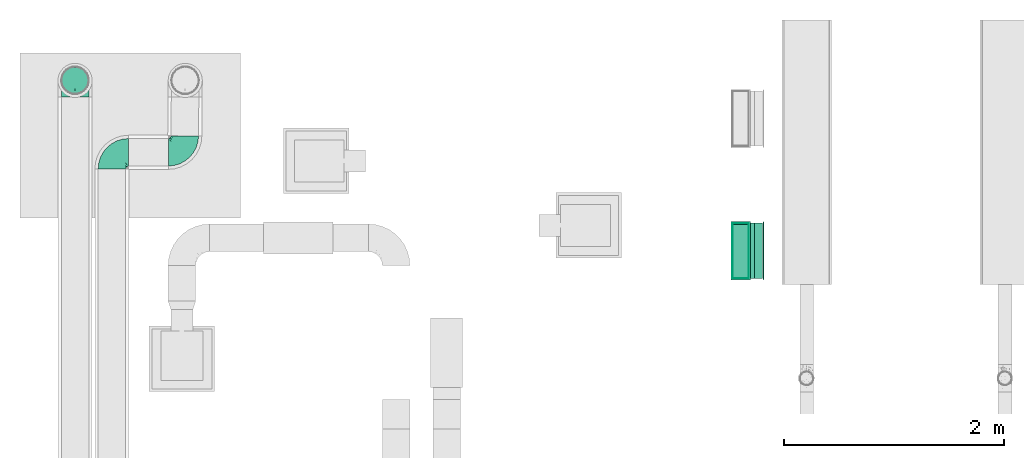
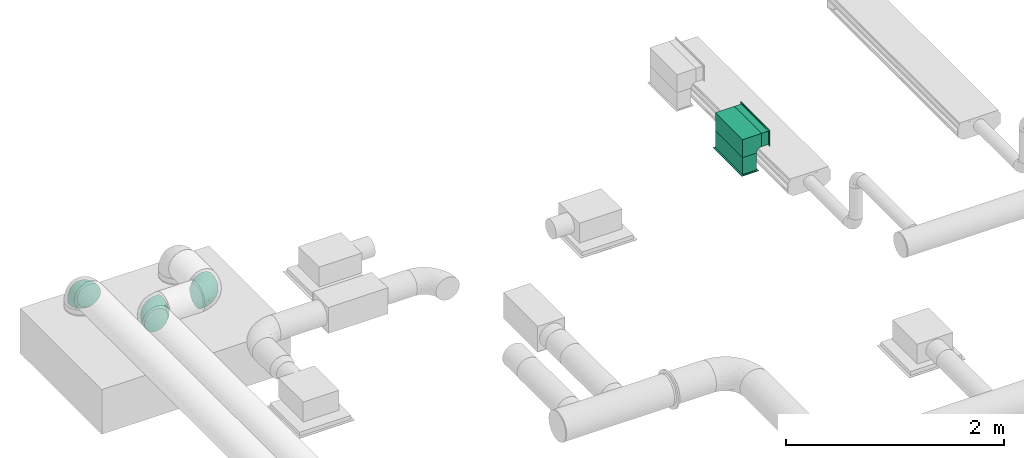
# One storey, part 23 of 36: 4 flow fittings, 2 flow segments, 2 flow terminals.
"""IFC2X3 building model written with IfcOpenShell, lengths in millimetres."""

from ifc_helpers import new_model, entity, si_unit, converted_unit, derived_unit, direction, frame, origin_with_axes, origin_2d_with_axis, place, context, subcontext, project, spatial, hollow_rectangle, extrude, open_shell, surface_model, source, transform, mapped, type_object, element, save


model = new_model("IFC2X3")

# Units and contexts
model_context = context("Model", 3, precision=0.01, world=frame((0.0, 4.29681676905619e-09, 0.0)), true_north=direction((4.01073788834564e-13, 1.0)))
plan_context = context("Plan", 3, precision=0.01, world=frame((0.0, 4.29681676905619e-09, 0.0)), true_north=direction((4.01073788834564e-13, 1.0)))
body_context = subcontext(model_context, "Body", "Model", "MODEL_VIEW")
ifc_project = project(units=[converted_unit("PLANEANGLEUNIT", "DEGREE", entity("IfcPositiveLengthMeasure", 0.0174532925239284), si_unit("PLANEANGLEUNIT", "RADIAN"), dimensions=[0, 0, 0, 0, 0, 0, 0]), si_unit("AREAUNIT", "SQUARE_METRE"), si_unit("LENGTHUNIT", "METRE", prefix="MILLI"), si_unit("MASSUNIT", "GRAM", prefix="KILO"), si_unit("POWERUNIT", "WATT"), si_unit("PRESSUREUNIT", "PASCAL"), si_unit("FORCEUNIT", "NEWTON", prefix="KILO"), si_unit("ELECTRICCURRENTUNIT", "AMPERE"), si_unit("THERMODYNAMICTEMPERATUREUNIT", "DEGREE_CELSIUS"), si_unit("TIMEUNIT", "SECOND"), si_unit("VOLUMEUNIT", "CUBIC_METRE"), derived_unit("LINEARVELOCITYUNIT", [(si_unit("LENGTHUNIT", "METRE"), 1), (si_unit("TIMEUNIT", "SECOND"), -1)]), derived_unit("VOLUMETRICFLOWRATEUNIT", [(si_unit("VOLUMEUNIT", "CUBIC_METRE"), 1), (si_unit("TIMEUNIT", "SECOND"), -1)]), derived_unit("THERMALTRANSMITTANCEUNIT", [(si_unit("POWERUNIT", "WATT"), 1), (si_unit("THERMODYNAMICTEMPERATUREUNIT", "KELVIN"), -1), (si_unit("AREAUNIT", "SQUARE_METRE"), -1)])], contexts=[model_context, plan_context])

# Site, building, storey
site_placement = place(None, frame((0.0, -4.29681676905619e-09, 0.0), z_axis=(0.0, 0.0, 1.0), x_axis=(1.0, 0.0, 0.0)))
site = spatial("IfcSite", under=ifc_project, at=site_placement, CompositionType="ELEMENT")
building_placement = place(site_placement, frame((0.0, 4.29681676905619e-09, 0.0), z_axis=(0.0, 0.0, 1.0), x_axis=(1.0, 0.0, 0.0)))
building = spatial("IfcBuilding", under=site, at=building_placement, Name="mc-building", CompositionType="ELEMENT")
storey_placement = place(building_placement, frame((0.0, 0.0, 204000.0), z_axis=(0.0, 0.0, 1.0), x_axis=(1.0, 0.0, 0.0)))
storey = spatial("IfcBuildingStorey", under=building, at=storey_placement, Name="Nivå D", CompositionType="ELEMENT", Elevation=204000.0)

# Flow fittings
duct_fitting_type_1 = type_object("IfcDuctFittingType", Name="WA", PredefinedType="BEND")
shared_shape_1 = source(origin_with_axes(), body_context, "Body", "SurfaceModel", [
    surface_model("IfcShellBasedSurfaceModel", [(-76.70371, 112.05905, 250.0), (-81.69873, 100.0, 250.0), (75.0, 125.0, 250.0), (-75.0, 126.5, 250.0), (75.0, 126.5, 250.0), (-75.0, 125.0, 250.0), (75.0, -75.0, 250.0), (-126.5, 75.0, 250.0), (-126.5, -75.0, 250.0), (-125.0, 75.0, 250.0), (-112.05905, 76.70371, 250.0), (-89.64466, 89.64466, 250.0), (-100.0, 81.69873, 250.0), (-126.5, -75.0, -250.0), (-126.5, 75.0, -250.0), (-125.0, 75.0, -250.0), (-112.05905, 76.70371, -250.0), (-100.0, 81.69873, -250.0), (75.0, -75.0, -250.0), (-89.64466, 89.64466, -250.0), (-81.69873, 100.0, -250.0), (-76.70371, 112.05905, -250.0), (75.0, 125.0, -250.0), (-75.0, 125.0, -250.0), (-75.0, 126.5, -250.0), (75.0, 126.5, -250.0)], [open_shell([[[0, 1, 2]], [[3, 2, 4]], [[2, 3, 5]], [[2, 5, 0]], [[1, 6, 2]], [[7, 8, 9]], [[9, 8, 10]], [[11, 12, 6]], [[8, 12, 10]], [[12, 8, 6]], [[11, 6, 1]], [[13, 14, 15]], [[13, 15, 16]], [[13, 17, 18]], [[17, 13, 16]], [[18, 17, 19]], [[20, 21, 22]], [[20, 22, 18]], [[23, 22, 21]], [[22, 23, 24]], [[24, 25, 22]], [[20, 18, 19]], [[20, 1, 0]], [[23, 0, 5]], [[21, 0, 23]], [[20, 0, 21]], [[20, 19, 1]], [[19, 11, 1]], [[10, 12, 16]], [[9, 10, 15]], [[19, 17, 11]], [[17, 12, 11]], [[16, 12, 17]], [[16, 15, 10]], [[7, 9, 14]], [[15, 14, 9]], [[8, 7, 13]], [[14, 13, 7]], [[6, 8, 13]], [[13, 18, 6]], [[2, 6, 22]], [[18, 22, 6]], [[4, 2, 25]], [[22, 25, 2]], [[3, 4, 24]], [[25, 24, 4]], [[5, 3, 23]], [[24, 23, 3]]])]),
])
flow_fitting_placement = place(storey_placement, frame((520619.9495, 418919.06689, 3190.0), z_axis=(0.0, 1.0, 0.0), x_axis=(0.0, 0.0, 1.0)))
element("IfcFlowFitting", 1, at=flow_fitting_placement, inside=storey, type_object=duct_fitting_type_1, Name="WA", context=body_context, shape_type="MappedRepresentation", body=[
    mapped(shared_shape_1, transform((0.0, 0.0, 0.0), scale=1.0)),
])
duct_fitting_type_2 = type_object("IfcDuctFittingType", Name="magicirc_elbow_short_001", PredefinedType="BEND")
shared_shape_2 = source(origin_with_axes(), body_context, "Body", "SurfaceModel", [
    surface_model("IfcShellBasedSurfaceModel", [(-150.0, 0.0, -125.0), (-150.0, -32.35238, -120.74073), (-150.0, 32.35238, -120.74073), (-150.0, 62.5, -108.25318), (-150.0, 88.38835, -88.38835), (-150.0, 108.25318, -62.5), (-150.0, 120.74073, -32.35238), (-150.0, -62.5, -108.25318), (-150.0, -88.38835, -88.38835), (-150.0, -125.0, 0.0), (-150.0, -108.25318, -62.5), (-150.0, -120.74073, -32.35238), (-150.0, 125.0, 0.0), (-150.0, -120.74073, 32.35238), (-150.0, 120.74073, 32.35238), (-150.0, 108.25318, 62.5), (-150.0, 32.35238, 120.74073), (-150.0, 62.5, 108.25318), (-150.0, 88.38835, 88.38835), (-150.0, -88.38835, 88.38835), (-150.0, -108.25318, 62.5), (-150.0, -32.35238, 120.74073), (-150.0, 0.0, 125.0), (-150.0, -62.5, 108.25318), (-32.35238, 150.0, -120.74073), (88.38835, 150.0, -88.38835), (0.0, 150.0, -125.0), (-88.38835, 150.0, -88.38835), (-62.5, 150.0, -108.25318), (-108.25318, 150.0, -62.5), (-120.74073, 150.0, -32.35238), (88.38835, 150.0, 88.38835), (32.35238, 150.0, -120.74073), (62.5, 150.0, -108.25318), (120.74073, 150.0, -32.35238), (108.25318, 150.0, -62.5), (125.0, 150.0, 0.0), (-125.0, 150.0, 0.0), (-120.74073, 150.0, 32.35238), (-32.35238, 150.0, 120.74073), (-108.25318, 150.0, 62.5), (-88.38835, 150.0, 88.38835), (-62.5, 150.0, 108.25318), (120.74073, 150.0, 32.35238), (108.25318, 150.0, 62.5), (62.5, 150.0, 108.25318), (0.0, 150.0, 125.0), (32.35238, 150.0, 120.74073), (3.43621, -49.5686, 72.62973), (-18.36868, -48.37229, 88.70337), (-18.83692, -66.65046, 70.44253), (-111.90441, -117.21345, 35.28889), (-118.95041, -121.94188, 0.0), (25.86906, 108.55436, 121.17479), (-75.7772, -90.32158, 72.9261), (-74.87608, -74.03385, 90.43438), (-106.18274, -83.07991, 89.59712), (-96.35016, -119.71595, 0.0), (-46.47779, 70.62109, 123.46212), (-76.11794, 76.11794, 116.41901), (-69.40624, 48.8823, 123.2752), (-124.4932, -102.85852, 69.13391), (61.55426, -23.61809, 0.0), (70.72079, -10.51336, 22.73937), (52.73629, -32.74631, 22.58023), (-124.77817, -54.06971, 111.94259), (-90.65624, -57.4337, 106.30719), (32.14495, -52.26832, 26.33949), (-0.28194, -75.27927, 33.26458), (23.61809, -61.55426, 0.0), (-95.68999, 131.65378, 83.88297), (-69.77814, 120.80048, 106.99559), (-67.0959, -108.40643, 29.86559), (-70.55611, -111.89141, 0.0), (-44.76206, -104.06687, 0.0), (-59.72745, 94.86231, 116.91683), (-108.55438, -25.86905, 121.17479), (54.06971, 124.77816, 111.94259), (-27.02672, -92.24399, 28.66038), (-115.00313, 7.3209, 124.96177), (37.68395, -37.68396, 47.97943), (-29.53309, 7.28525, 119.4722), (-3.39232, -9.52602, 105.74117), (0.96712, 29.12319, 117.22512), (-136.08989, 114.55349, 55.66419), (-123.43379, 95.73566, 87.17875), (-119.07435, 119.07435, 65.82439), (-129.09162, 129.09162, 33.48663), (-137.5, 128.34936, 0.0), (-121.4114, 69.81738, 106.84783), (-150.0, 47.42619, 114.49695), (-128.63564, 33.72653, 120.89263), (-27.58141, -83.17169, 52.68646), (-47.99632, -78.87458, 74.22581), (-54.84475, -96.13379, 51.52422), (103.28598, 90.85645, 59.18699), (90.74371, 74.5558, 71.84785), (96.43496, 48.91625, 45.66343), (-41.1276, 38.26732, 124.85571), (102.85852, 124.4932, 69.13391), (83.07991, 106.18274, 89.59712), (-94.00852, 107.9804, 96.05098), (74.96021, 76.43193, 90.06036), (117.21345, 111.90441, 35.28889), (121.94188, 118.95041, 0.0), (-47.30293, -61.16044, 91.82798), (78.87458, 47.99631, 74.22581), (76.94281, 15.76685, 52.00246), (-101.88517, 84.02177, 104.66367), (110.18665, 71.48082, 28.20521), (111.89141, 70.55611, 0.0), (55.40218, 7.25052, 74.8198), (24.63024, -24.60151, 78.91029), (58.21029, -16.89277, 44.41752), (57.4337, 90.65623, 106.30718), (30.02154, 57.30162, 113.4468), (-128.34936, 137.5, 0.0), (-73.97464, 6.61086, 124.39367), (-33.52256, 127.66016, 120.99202), (-7.19958, 114.11429, 124.96953), (-18.42999, 93.20127, 124.82066), (14.9991, 81.71173, 121.69074), (-109.70554, 132.7303, 65.99174), (-81.52168, -16.35182, 121.37252), (-56.488, -29.68334, 113.41267), (55.20354, 44.94313, 95.60044), (-90.85645, -103.28598, 59.18699), (-26.43187, -29.68413, 104.83883), (-7.20961, 68.77767, 124.18226), (30.67747, 15.69438, 99.90432), (-47.42619, 150.0, 114.49695), (-107.88822, 38.92177, 121.04182), (-96.15013, 61.71268, 115.9946), (-96.31285, 19.15333, 124.70605), (14.59493, -56.28029, 51.4962), (104.06687, 44.76206, 0.0), (102.01943, 45.4582, 23.12647), (89.00824, 19.09141, 24.82271), (119.71595, 96.35016, 0.0), (-20.99012, -91.36051, 0.0), (78.65415, -2.78181, 0.0), (91.36051, 20.99012, 0.0), (2.78181, -78.65415, 0.0), (44.45436, -44.45436, 0.0), (-38.84807, 105.96939, 121.23578), (-120.80048, 69.77814, -106.99559), (54.06971, 124.77816, -111.94259), (-90.65624, -57.4337, -106.30719), (-124.77817, -54.06971, -111.94259), (-108.55438, -25.86906, -121.17479), (-18.36869, -48.37229, -88.70338), (-18.83692, -66.65046, -70.44253), (-47.30293, -61.16045, -91.82798), (-96.31285, 19.15333, -124.70605), (-73.97463, 6.61086, -124.39367), (-115.00313, 7.3209, -124.96177), (14.9991, 81.71175, -121.69074), (25.86906, 108.55438, -121.17479), (30.02154, 57.30164, -113.44681), (-129.09162, 129.09162, -33.48663), (-95.73566, 123.43379, -87.17875), (-84.02176, 101.88516, -104.66368), (-107.9804, 94.00852, -96.05098), (-0.28194, -75.27927, -33.26458), (-131.65378, 95.68999, -83.88297), (-132.7303, 109.70554, -65.99174), (-107.88822, 38.92177, -121.04182), (-128.63564, 33.72653, -120.89263), (-119.07435, 119.07435, -65.82439), (-111.90441, -117.21345, -35.28889), (-76.11794, 76.11793, -116.41901), (-69.69403, 48.67006, -123.27304), (-95.38125, 59.83873, -116.77822), (-106.18274, -83.07991, -89.59712), (-3.39231, -9.52602, -105.74117), (24.63023, -24.60151, -78.91029), (-54.84475, -96.13379, -51.52422), (-75.7772, -90.32158, -72.9261), (-47.99632, -78.87458, -74.22581), (-124.4932, -102.85852, -69.13391), (30.67749, 15.69438, -99.9043), (0.96713, 29.12319, -117.22511), (-69.81738, 121.4114, -106.84784), (-27.02672, -92.24399, -28.66038), (-67.0959, -108.40643, -29.86559), (78.87458, 47.99631, -74.22581), (96.43495, 48.9163, -45.66349), (76.94285, 15.76686, -52.00241), (37.68395, -37.68396, -47.97943), (58.21029, -16.89277, -44.41752), (52.73629, -32.74631, -22.58023), (-48.07357, 68.7261, -123.44788), (-114.55349, 136.08989, -55.66419), (117.21345, 111.90441, -35.28889), (-7.19958, 114.11428, -124.96953), (-27.58141, -83.17169, -52.68646), (-47.42619, 150.0, -114.49695), (-33.52256, 127.66015, -120.99202), (32.14495, -52.26832, -26.33949), (14.59493, -56.28029, -51.4962), (83.07991, 106.18274, -89.59712), (102.85852, 124.4932, -69.13391), (89.00829, 19.0915, -24.82265), (70.72079, -10.51336, -22.73937), (57.4337, 90.65623, -106.30719), (110.18664, 71.4808, -28.20522), (102.0194, 45.45816, -23.12649), (-90.85645, -103.28598, -59.18699), (90.01217, 76.65037, -73.68876), (73.67235, 74.27652, -90.57836), (-29.53307, 7.28526, -119.4722), (-56.488, -29.68334, -113.41267), (-74.87608, -74.03385, -90.43438), (-81.52167, -16.35182, -121.37252), (-26.43187, -29.68413, -104.83883), (103.28598, 90.85645, -59.18699), (-18.42999, 93.20126, -124.82066), (-38.84807, 105.96939, -121.23578), (55.20355, 44.94317, -95.60045), (-150.0, 47.42619, -114.49695), (55.40223, 7.25057, -74.81978), (-61.71268, 96.15012, -115.9946), (-41.12759, 38.26731, -124.85571), (3.43621, -49.56858, -72.62973), (-7.2096, 68.77766, -124.18226)], [open_shell([[[0, 1, 2]], [[3, 2, 4]], [[1, 5, 2]], [[4, 2, 5]], [[5, 1, 6]], [[7, 8, 1]], [[9, 1, 8]], [[10, 11, 8]], [[9, 8, 11]], [[9, 6, 1]], [[9, 12, 6]], [[12, 13, 14]], [[15, 14, 16]], [[16, 17, 18]], [[15, 16, 18]], [[16, 14, 19]], [[20, 19, 13]], [[19, 14, 13]], [[21, 22, 23]], [[19, 23, 22]], [[19, 22, 16]], [[9, 13, 12]], [[24, 25, 26]], [[27, 24, 28]], [[29, 30, 24]], [[29, 24, 27]], [[24, 31, 25]], [[32, 25, 33]], [[32, 26, 25]], [[25, 34, 35]], [[34, 25, 36]], [[25, 31, 36]], [[24, 30, 37]], [[38, 31, 37]], [[39, 38, 40]], [[41, 42, 39]], [[41, 39, 40]], [[31, 38, 39]], [[43, 31, 44]], [[36, 31, 43]], [[45, 46, 47]], [[46, 45, 31]], [[39, 46, 31]], [[31, 24, 37]], [[48, 49, 50]], [[51, 13, 52]], [[53, 47, 46]], [[54, 55, 56]], [[52, 57, 51]], [[58, 59, 60]], [[20, 61, 19]], [[62, 63, 64]], [[65, 56, 66]], [[67, 68, 69]], [[41, 70, 71]], [[72, 73, 74]], [[59, 58, 75]], [[21, 76, 22]], [[77, 45, 47]], [[23, 19, 56]], [[72, 74, 78]], [[79, 16, 22]], [[76, 21, 65]], [[80, 67, 64]], [[81, 82, 83]], [[84, 85, 86]], [[87, 12, 14]], [[12, 87, 88]], [[18, 17, 89]], [[51, 20, 13]], [[18, 89, 85]], [[17, 90, 91]], [[84, 14, 15]], [[91, 90, 16]], [[92, 93, 94]], [[40, 70, 41]], [[95, 96, 97]], [[83, 98, 81]], [[44, 31, 99]], [[100, 31, 45]], [[86, 85, 101]], [[102, 96, 100]], [[103, 104, 43]], [[66, 55, 105]], [[77, 100, 45]], [[103, 43, 44]], [[97, 106, 107]], [[85, 15, 18]], [[108, 85, 89]], [[85, 84, 15]], [[103, 109, 110]], [[111, 112, 113]], [[114, 53, 115]], [[88, 87, 116]], [[60, 117, 98]], [[116, 87, 37]], [[85, 108, 101]], [[38, 37, 87]], [[71, 118, 42]], [[119, 120, 121]], [[122, 38, 87]], [[70, 122, 101]], [[123, 76, 124]], [[114, 115, 125]], [[119, 53, 46]], [[42, 41, 71]], [[77, 53, 114]], [[72, 78, 94]], [[54, 126, 94]], [[21, 23, 65]], [[124, 76, 66]], [[61, 56, 19]], [[76, 123, 79]], [[93, 105, 55]], [[124, 127, 81]], [[102, 100, 114]], [[99, 100, 95]], [[46, 39, 119]], [[115, 121, 128]], [[128, 83, 115]], [[115, 83, 129]], [[75, 101, 59]], [[118, 39, 130]], [[106, 111, 107]], [[125, 111, 106]], [[131, 89, 17]], [[108, 132, 59]], [[118, 119, 39]], [[119, 118, 120]], [[51, 57, 73]], [[61, 51, 126]], [[99, 103, 44]], [[109, 95, 97]], [[76, 79, 22]], [[133, 79, 117]], [[83, 128, 98]], [[129, 83, 82]], [[128, 120, 58]], [[59, 132, 60]], [[129, 82, 112]], [[125, 115, 129]], [[49, 112, 82]], [[80, 134, 67]], [[127, 49, 82]], [[93, 92, 50]], [[111, 125, 129]], [[125, 106, 102]], [[112, 111, 129]], [[111, 113, 107]], [[98, 117, 81]], [[124, 81, 117]], [[63, 113, 64]], [[135, 109, 136]], [[137, 97, 107]], [[97, 136, 109]], [[110, 138, 103]], [[103, 95, 109]], [[78, 74, 139]], [[73, 72, 51]], [[51, 72, 126]], [[68, 134, 50]], [[72, 94, 126]], [[92, 94, 78]], [[54, 94, 93]], [[63, 107, 113]], [[137, 140, 141]], [[68, 92, 78]], [[50, 49, 105]], [[78, 142, 68]], [[68, 142, 69]], [[67, 69, 143]], [[64, 67, 143]], [[68, 67, 134]], [[68, 50, 92]], [[48, 50, 134]], [[80, 48, 134]], [[112, 49, 48]], [[62, 140, 63]], [[80, 64, 113]], [[140, 137, 63]], [[107, 63, 137]], [[64, 143, 62]], [[113, 112, 80]], [[48, 80, 112]], [[55, 54, 93]], [[56, 126, 54]], [[93, 50, 105]], [[56, 55, 66]], [[127, 105, 49]], [[66, 105, 124]], [[132, 108, 89]], [[101, 108, 59]], [[89, 131, 132]], [[60, 98, 58]], [[132, 131, 60]], [[60, 131, 133]], [[128, 58, 98]], [[75, 58, 144]], [[144, 71, 75]], [[101, 75, 71]], [[122, 70, 40]], [[136, 141, 135]], [[71, 70, 101]], [[38, 122, 40]], [[101, 122, 86]], [[84, 87, 14]], [[122, 87, 86]], [[13, 9, 52]], [[104, 103, 138]], [[104, 36, 43]], [[87, 84, 86]], [[51, 61, 20]], [[56, 61, 126]], [[56, 65, 23]], [[76, 65, 66]], [[100, 99, 31]], [[103, 99, 95]], [[53, 77, 47]], [[100, 77, 114]], [[118, 71, 144]], [[120, 118, 144]], [[42, 118, 130]], [[79, 133, 91]], [[79, 91, 16]], [[17, 91, 131]], [[124, 117, 123]], [[79, 123, 117]], [[125, 102, 114]], [[96, 102, 106]], [[97, 96, 106]], [[100, 96, 95]], [[115, 53, 121]], [[119, 121, 53]], [[58, 120, 144]], [[121, 120, 128]], [[60, 133, 117]], [[91, 133, 131]], [[81, 127, 82]], [[105, 127, 124]], [[97, 137, 136]], [[141, 136, 137]], [[109, 135, 110]], [[139, 142, 78]], [[4, 145, 3]], [[32, 33, 146]], [[147, 148, 149]], [[150, 151, 152]], [[153, 154, 155]], [[156, 157, 158]], [[88, 159, 12]], [[160, 161, 162]], [[159, 6, 12]], [[142, 163, 69]], [[162, 164, 165]], [[3, 166, 167]], [[168, 160, 162]], [[159, 165, 6]], [[10, 169, 11]], [[169, 52, 11]], [[170, 171, 172]], [[7, 148, 173]], [[174, 175, 150]], [[176, 177, 178]], [[149, 1, 0]], [[34, 36, 104]], [[10, 8, 179]], [[180, 174, 181]], [[161, 160, 182]], [[183, 74, 184]], [[8, 7, 173]], [[185, 186, 187]], [[188, 189, 190]], [[159, 88, 116]], [[155, 149, 0]], [[37, 30, 159]], [[171, 170, 191]], [[192, 30, 29]], [[193, 35, 34]], [[4, 164, 145]], [[192, 160, 168]], [[24, 26, 194]], [[148, 7, 1]], [[155, 0, 2]], [[157, 194, 26]], [[163, 183, 195]], [[196, 24, 197]], [[198, 163, 199]], [[182, 160, 27]], [[160, 29, 27]], [[200, 33, 25]], [[35, 201, 25]], [[187, 186, 202]], [[203, 62, 190]], [[32, 146, 157]], [[200, 204, 146]], [[205, 135, 206]], [[184, 169, 207]], [[104, 138, 193]], [[34, 104, 193]], [[27, 28, 182]], [[183, 142, 139]], [[32, 157, 26]], [[200, 208, 209]], [[210, 181, 174]], [[147, 149, 211]], [[177, 212, 178]], [[37, 159, 116]], [[179, 173, 207]], [[5, 164, 4]], [[211, 213, 154]], [[210, 211, 154]], [[214, 174, 150]], [[201, 200, 25]], [[208, 200, 215]], [[158, 157, 204]], [[216, 217, 197]], [[204, 209, 218]], [[172, 162, 170]], [[167, 2, 219]], [[180, 175, 174]], [[187, 189, 220]], [[182, 28, 197]], [[161, 221, 170]], [[194, 157, 156]], [[28, 196, 197]], [[179, 169, 10]], [[169, 73, 57]], [[193, 110, 205]], [[201, 193, 215]], [[2, 167, 155]], [[155, 154, 213]], [[180, 181, 158]], [[181, 210, 222]], [[154, 153, 171]], [[170, 221, 191]], [[158, 218, 180]], [[180, 218, 220]], [[175, 180, 220]], [[195, 178, 151]], [[151, 223, 199]], [[212, 152, 178]], [[204, 218, 158]], [[185, 187, 220]], [[185, 220, 218]], [[175, 220, 189]], [[210, 174, 214]], [[154, 222, 210]], [[208, 186, 185]], [[187, 202, 203]], [[205, 186, 215]], [[206, 141, 202]], [[215, 193, 205]], [[169, 184, 73]], [[74, 73, 184]], [[184, 176, 183]], [[176, 184, 207]], [[183, 176, 195]], [[177, 176, 207]], [[195, 176, 178]], [[206, 186, 205]], [[207, 173, 177]], [[178, 152, 151]], [[195, 151, 163]], [[69, 163, 198]], [[142, 183, 163]], [[69, 198, 143]], [[188, 198, 199]], [[190, 143, 198]], [[223, 151, 150]], [[163, 151, 199]], [[150, 175, 223]], [[188, 223, 175]], [[223, 188, 199]], [[175, 189, 188]], [[188, 190, 198]], [[190, 189, 203]], [[187, 203, 189]], [[202, 140, 203]], [[62, 203, 140]], [[62, 143, 190]], [[212, 173, 147]], [[173, 212, 177]], [[147, 211, 152]], [[147, 152, 212]], [[214, 152, 211]], [[221, 161, 182]], [[162, 161, 170]], [[182, 217, 221]], [[191, 222, 171]], [[221, 217, 191]], [[191, 217, 216]], [[154, 171, 222]], [[172, 166, 145]], [[166, 172, 171]], [[162, 172, 145]], [[165, 164, 5]], [[141, 140, 202]], [[145, 164, 162]], [[6, 165, 5]], [[162, 165, 168]], [[192, 159, 30]], [[165, 159, 168]], [[52, 169, 57]], [[52, 9, 11]], [[160, 192, 29]], [[159, 192, 168]], [[173, 179, 8]], [[169, 179, 207]], [[149, 148, 1]], [[173, 148, 147]], [[193, 201, 35]], [[200, 201, 215]], [[200, 146, 33]], [[157, 146, 204]], [[217, 182, 197]], [[24, 194, 197]], [[216, 197, 194]], [[166, 3, 145]], [[3, 167, 219]], [[167, 166, 153]], [[211, 149, 213]], [[155, 213, 149]], [[186, 208, 215]], [[209, 208, 185]], [[218, 209, 185]], [[200, 209, 204]], [[156, 216, 194]], [[167, 153, 155]], [[171, 153, 166]], [[152, 214, 150]], [[210, 214, 211]], [[141, 206, 135]], [[202, 186, 206]], [[110, 193, 138]], [[110, 135, 205]], [[74, 183, 139]], [[191, 224, 222]], [[181, 222, 224]], [[181, 224, 158]], [[158, 224, 156]], [[156, 224, 216]], [[191, 216, 224]]])]),
])
for number, where, z_axis, x_axis, name in (
    (2, (514912.18938, 419812.77189, 2614.0), (0.0, 0.0, 1.0), (-1.0, 0.0, 0.0), "magicirc_elbow_short_001"),
    (3, (515573.60115, 419812.77189, 2614.0), (0.0, 0.0, 1.0), (1.0, 0.0, 0.0), "magicirc_elbow_short_001"),
    (4, (514577.5, 420465.19145, 2614.0), (1.0, 0.0, 0.0), (0.0, 0.0, 1.0), "magicirc_elbow_short_001"),
):
    element("IfcFlowFitting", number, at=place(storey_placement, frame(where, z_axis=z_axis, x_axis=x_axis)), inside=storey, type_object=duct_fitting_type_2, Name=name, context=body_context, shape_type="MappedRepresentation", body=[
        mapped(shared_shape_2, transform((0.0, 0.0, 0.0), scale=1.0)),
    ])

# Flow segments
duct_segment_type = type_object("IfcDuctSegmentType", Name="KK002T - Rektangulære, Forsinket stål", PredefinedType="RIGIDSEGMENT")
shared_shape_3 = source(origin_with_axes(), body_context, "Body", "SweptSolid", [
    extrude(hollow_rectangle(XDim=500.0, YDim=150.0, WallThickness=2.0, at=origin_2d_with_axis()), frame((0.0, 0.0, 0.0), z_axis=(1.0, 0.0, 0.0), x_axis=(0.0, 1.0, 0.0)), (0.0, 0.0, 1.0), 188.4),
])
flow_segment_1_placement = place(storey_placement, frame((520619.9495, 418919.06689, 2875.05682999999), z_axis=(-1.0, 0.0, 0.0), x_axis=(0.0, 0.0, 1.0)))
element("IfcFlowSegment", 5, at=flow_segment_1_placement, inside=storey, type_object=duct_segment_type, Name="KK002T - Rektangulære, Forsinket stål", context=body_context, shape_type="MappedRepresentation", body=[
    mapped(shared_shape_3, transform((0.0, 0.0, 0.0), scale=1.0)),
])
shared_shape_4 = source(origin_with_axes(), body_context, "Body", "SweptSolid", [
    extrude(hollow_rectangle(XDim=500.0, YDim=150.0, WallThickness=2.0, at=origin_2d_with_axis()), frame((0.0, 0.0, 0.0), z_axis=(1.0, 0.0, 0.0), x_axis=(0.0, 1.0, 0.0)), (0.0, 0.0, 1.0), 73.5),
])
flow_segment_2_placement = place(storey_placement, frame((520746.4495, 418919.06689, 3190.0), z_axis=(0.0, 0.0, 1.0), x_axis=(1.0, 0.0, 0.0)))
element("IfcFlowSegment", 6, at=flow_segment_2_placement, inside=storey, type_object=duct_segment_type, Name="KK002T - Rektangulære, Forsinket stål", context=body_context, shape_type="MappedRepresentation", body=[
    mapped(shared_shape_4, transform((0.0, 0.0, 0.0), scale=1.0)),
])

# Flow terminals
air_terminal_type = type_object("IfcAirTerminalType", Name="GRLc 500-150", PredefinedType="NOTDEFINED")
shared_shape_5 = source(origin_with_axes(), body_context, "Body", "SurfaceModel", [
    surface_model("IfcShellBasedSurfaceModel", [(9.90194, -239.99999, 64.98039), (4.90194, -264.99999, 89.98039), (9.90194, 239.99999, 64.98039), (4.90194, 264.99999, 89.98039), (10.09806, 239.99999, 65.01961), (5.09806, 264.99999, 90.01961), (5.09806, -264.99999, 90.01961), (10.09806, -239.99999, 65.01961), (10.09806, -239.99999, -65.01961), (5.09806, -264.99999, -90.01961), (10.09806, 239.99999, -65.01961), (5.09806, 264.99999, -90.01961), (9.90194, 239.99999, -64.98039), (4.90194, 264.99999, -89.98039), (4.90194, -264.99999, -89.98039), (9.90194, -239.99999, -64.98039), (9.90194, -239.98039, -65.0), (4.90194, -264.98039, -90.0), (4.90194, -264.98039, 90.0), (9.90194, -239.98039, 65.0), (10.09806, -240.01962, 65.0), (5.09806, -265.01962, 90.0), (5.09806, -265.01962, -90.0), (10.09806, -240.01962, -65.0), (10.09806, 240.01962, -65.0), (5.09806, 265.01962, -90.0), (5.09806, 265.01962, 90.0), (10.09806, 240.01962, 65.0), (9.90194, 239.98039, 65.0), (4.90194, 264.98039, 90.0), (4.90194, 264.98039, -90.0), (9.90194, 239.98039, -65.0), (-0.1, 264.99999, 75.0), (-0.1, 250.0, 75.0), (-0.1, 250.0, 90.0), (-0.1, 264.99999, 90.0), (0.1, 264.99999, 90.0), (0.1, 250.0, 90.0), (0.1, 250.0, 75.0), (0.1, 264.99999, 75.0), (-0.1, 264.99999, -90.0), (-0.1, 250.0, -90.0), (-0.1, 250.0, -75.0), (-0.1, 264.99999, -75.0), (0.1, 264.99999, -75.0), (0.1, 250.0, -75.0), (0.1, 250.0, -90.0), (0.1, 264.99999, -90.0), (-0.1, -250.0, -90.0), (-0.1, -264.99999, -90.0), (-0.1, -264.99999, -75.0), (-0.1, -250.0, -75.0), (0.1, -250.0, -75.0), (0.1, -264.99999, -75.0), (0.1, -264.99999, -90.0), (0.1, -250.0, -90.0), (-0.1, -250.0, 75.0), (-0.1, -264.99999, 75.0), (-0.1, -264.99999, 90.0), (-0.1, -250.0, 90.0), (0.1, -250.0, 90.0), (0.1, -264.99999, 90.0), (0.1, -264.99999, 75.0), (0.1, -250.0, 75.0), (0.0, -264.99999, 89.9), (0.0, 264.99999, 89.9), (5.0, -264.99999, 89.9), (5.0, 264.99999, 89.9), (5.0, -264.99999, 90.1), (5.0, 264.99999, 90.1), (0.0, 264.99999, 90.1), (0.0, -264.99999, 90.1), (0.0, 264.9, -90.0), (5.0, 264.9, -90.0), (5.0, 264.9, 90.0), (0.0, 264.9, 90.0), (0.0, 265.10001, 90.0), (5.0, 265.10001, 90.0), (0.0, 265.10001, -90.0), (5.0, 265.10001, -90.0), (0.0, -265.10001, -90.0), (5.0, -265.10001, -90.0), (5.0, -265.10001, 90.0), (0.0, -265.10001, 90.0), (0.0, -264.9, 90.0), (5.0, -264.9, 90.0), (0.0, -264.9, -90.0), (5.0, -264.9, -90.0), (0.0, -264.99999, -90.1), (0.0, 264.99999, -90.1), (5.0, -264.99999, -90.1), (5.0, 264.99999, -90.1), (5.0, -264.99999, -89.9), (5.0, 264.99999, -89.9), (0.0, 264.99999, -89.9), (0.0, -264.99999, -89.9), (5.0, -239.99999, -65.1), (5.0, 239.99999, -65.1), (10.0, 239.99999, -65.1), (10.0, -239.99999, -65.1), (10.0, -239.99999, -64.9), (10.0, 239.99999, -64.9), (5.0, 239.99999, -64.9), (5.0, -239.99999, -64.9), (5.0, -239.99999, 64.9), (5.0, 239.99999, 64.9), (10.0, 239.99999, 64.9), (10.0, -239.99999, 64.9), (10.0, -239.99999, 65.1), (10.0, 239.99999, 65.1), (5.0, 239.99999, 65.1), (5.0, -239.99999, 65.1), (5.0, 239.9, -65.0), (10.0, 239.9, -65.0), (10.0, 239.9, 65.0), (5.0, 239.9, 65.0), (5.0, 240.10001, 65.0), (10.0, 240.10001, 65.0), (5.0, 240.10001, -65.0), (10.0, 240.10001, -65.0), (5.0, -240.10001, -65.0), (10.0, -240.10001, -65.0), (10.0, -240.10001, 65.0), (5.0, -240.10001, 65.0), (5.0, -239.9, 65.0), (10.0, -239.9, 65.0), (5.0, -239.9, -65.0), (10.0, -239.9, -65.0)], [open_shell([[[0, 1, 2]], [[3, 2, 1]], [[4, 5, 6]], [[6, 7, 4]], [[3, 1, 6]], [[6, 5, 3]], [[2, 3, 5]], [[5, 4, 2]], [[0, 2, 4]], [[4, 7, 0]], [[1, 0, 7]], [[7, 6, 1]], [[8, 9, 10]], [[11, 10, 9]], [[12, 13, 14]], [[14, 15, 12]], [[11, 9, 14]], [[14, 13, 11]], [[10, 11, 13]], [[13, 12, 10]], [[8, 10, 12]], [[12, 15, 8]], [[9, 8, 15]], [[15, 14, 9]], [[16, 17, 18]], [[18, 19, 16]], [[20, 21, 22]], [[22, 23, 20]], [[18, 17, 22]], [[22, 21, 18]], [[19, 18, 21]], [[21, 20, 19]], [[16, 19, 23]], [[20, 23, 19]], [[17, 16, 22]], [[23, 22, 16]], [[24, 25, 26]], [[26, 27, 24]], [[28, 29, 30]], [[30, 31, 28]], [[26, 25, 30]], [[30, 29, 26]], [[27, 26, 29]], [[29, 28, 27]], [[24, 27, 31]], [[28, 31, 27]], [[25, 24, 31]], [[31, 30, 25]], [[32, 33, 34]], [[34, 35, 32]], [[36, 37, 38]], [[38, 39, 36]], [[34, 33, 38]], [[38, 37, 34]], [[35, 34, 37]], [[37, 36, 35]], [[32, 35, 36]], [[36, 39, 32]], [[33, 32, 39]], [[39, 38, 33]], [[40, 41, 42]], [[42, 43, 40]], [[44, 45, 46]], [[46, 47, 44]], [[42, 41, 46]], [[46, 45, 42]], [[43, 42, 45]], [[45, 44, 43]], [[40, 43, 44]], [[44, 47, 40]], [[41, 40, 47]], [[47, 46, 41]], [[48, 49, 50]], [[50, 51, 48]], [[52, 53, 54]], [[54, 55, 52]], [[50, 49, 54]], [[54, 53, 50]], [[51, 50, 53]], [[53, 52, 51]], [[48, 51, 52]], [[52, 55, 48]], [[49, 48, 55]], [[55, 54, 49]], [[56, 57, 58]], [[58, 59, 56]], [[60, 61, 62]], [[62, 63, 60]], [[58, 57, 62]], [[62, 61, 58]], [[59, 58, 61]], [[61, 60, 59]], [[56, 59, 60]], [[60, 63, 56]], [[57, 56, 63]], [[63, 62, 57]], [[64, 65, 66]], [[67, 66, 65]], [[68, 69, 70]], [[70, 71, 68]], [[67, 65, 70]], [[70, 69, 67]], [[66, 67, 69]], [[69, 68, 66]], [[64, 66, 68]], [[68, 71, 64]], [[65, 64, 71]], [[71, 70, 65]], [[72, 73, 74]], [[74, 75, 72]], [[76, 77, 78]], [[79, 78, 77]], [[74, 73, 79]], [[79, 77, 74]], [[75, 74, 77]], [[77, 76, 75]], [[72, 75, 76]], [[76, 78, 72]], [[73, 72, 78]], [[78, 79, 73]], [[80, 81, 82]], [[82, 83, 80]], [[84, 85, 86]], [[87, 86, 85]], [[82, 81, 87]], [[87, 85, 82]], [[83, 82, 85]], [[85, 84, 83]], [[80, 83, 84]], [[84, 86, 80]], [[81, 80, 86]], [[86, 87, 81]], [[88, 89, 90]], [[91, 90, 89]], [[92, 93, 94]], [[94, 95, 92]], [[91, 89, 94]], [[94, 93, 91]], [[90, 91, 93]], [[93, 92, 90]], [[88, 90, 92]], [[92, 95, 88]], [[89, 88, 95]], [[95, 94, 89]], [[96, 97, 98]], [[98, 99, 96]], [[100, 101, 102]], [[102, 103, 100]], [[98, 97, 101]], [[102, 101, 97]], [[99, 98, 101]], [[101, 100, 99]], [[96, 99, 100]], [[100, 103, 96]], [[97, 96, 103]], [[103, 102, 97]], [[104, 105, 106]], [[106, 107, 104]], [[108, 109, 110]], [[110, 111, 108]], [[106, 105, 109]], [[110, 109, 105]], [[107, 106, 109]], [[109, 108, 107]], [[104, 107, 108]], [[108, 111, 104]], [[105, 104, 111]], [[111, 110, 105]], [[112, 113, 114]], [[114, 115, 112]], [[116, 117, 118]], [[119, 118, 117]], [[114, 113, 119]], [[119, 117, 114]], [[115, 114, 117]], [[117, 116, 115]], [[112, 115, 118]], [[116, 118, 115]], [[113, 112, 118]], [[118, 119, 113]], [[120, 121, 122]], [[122, 123, 120]], [[124, 125, 126]], [[127, 126, 125]], [[122, 121, 127]], [[127, 125, 122]], [[123, 122, 125]], [[125, 124, 123]], [[120, 123, 126]], [[124, 126, 123]], [[121, 120, 126]], [[126, 127, 121]], [[33, 56, 34]], [[59, 34, 56]], [[37, 60, 63]], [[63, 38, 37]], [[59, 56, 63]], [[63, 60, 59]], [[34, 59, 60]], [[60, 37, 34]], [[33, 34, 37]], [[37, 38, 33]], [[56, 33, 38]], [[38, 63, 56]], [[51, 50, 57]], [[57, 56, 51]], [[63, 62, 53]], [[53, 52, 63]], [[57, 50, 53]], [[53, 62, 57]], [[56, 57, 62]], [[62, 63, 56]], [[51, 56, 63]], [[63, 52, 51]], [[50, 51, 52]], [[52, 53, 50]], [[41, 48, 42]], [[51, 42, 48]], [[45, 52, 55]], [[55, 46, 45]], [[51, 48, 55]], [[55, 52, 51]], [[42, 51, 52]], [[52, 45, 42]], [[41, 42, 45]], [[45, 46, 41]], [[48, 41, 46]], [[46, 55, 48]], [[43, 42, 33]], [[33, 32, 43]], [[39, 38, 45]], [[45, 44, 39]], [[33, 42, 45]], [[45, 38, 33]], [[32, 33, 38]], [[38, 39, 32]], [[43, 32, 39]], [[39, 44, 43]], [[42, 43, 44]], [[44, 45, 42]]])]),
])
for number, where, z_axis, x_axis in (
    (7, (520619.9495, 418919.06689, 2871.97834999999), (-1.0, 0.0, 0.0), (0.0, 0.0, -1.0)),
    (8, (520823.02798, 418919.06689, 3190.0), (0.0, 0.0, 1.0), (1.0, 0.0, 0.0)),
):
    element("IfcFlowTerminal", number, at=place(storey_placement, frame(where, z_axis=z_axis, x_axis=x_axis)), inside=storey, type_object=air_terminal_type, Name="GRLc 500-150", context=body_context, shape_type="MappedRepresentation", body=[
        mapped(shared_shape_5, transform((0.0, 0.0, 0.0), scale=1.0)),
    ])

save(model, "model.ifc")
